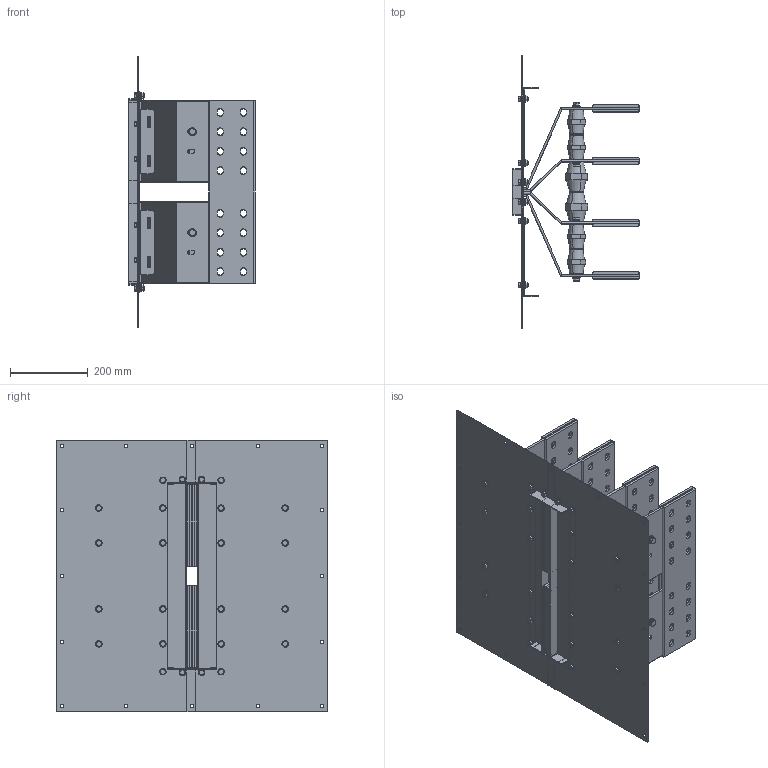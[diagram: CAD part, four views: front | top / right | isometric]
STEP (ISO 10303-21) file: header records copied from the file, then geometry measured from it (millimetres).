
FILE_DESCRIPTION(('CATIA V5 STEP','CAx-IF Rec.Pracs.--- Model Styling and Organization---1.5--- 2016-08-15','CAx-IF Rec.Pracs.---Supplemental Geometry---1.0---2011-11-01','CAx-IF Rec.Pracs.--- Composite Materials ---1.1---2010-07-15'),'2;1');
FILE_NAME('K:\COSCN 2011\32372311_RiduzioneSezioniBarre\03_Studio\__Modelli semplificati\XCP_UB semplificati per studi\XCP-S_UB_4C_Pe_CRT_Assieme\Cu\XCP-S_UB_4C_Pe_D_Assieme - 5000A Cu_CRT\XCP-S_UB_4C_Pe_D_Assieme - 5000A Cu_CRT.stp','2025-05-12T13:21:11+00:00',('Utente Bticino'),('Bticino S.p.A.'),'CATIA Version 5-6 Release 2020 SP5','CATIA V5 STEP AP214 v2','none');
FILE_SCHEMA(('AUTOMOTIVE_DESIGN { 1 0 10303 214 1 1 1 1 }'));
Length unit declared in the file: millimetre
Products named in the file (30): XCP-S_UB_4C_Pe_D_Assieme - 5000A Cu_CRT; XCP-S_UB_4C_Pe_D_PaccoBarre_5000A Cu_CRT; XCP-S_UB_4C_Pe_D_Lamiere_5000A Cu_CRT; XCP-S_UB_4C_Pe_D_PaccoBarre_5000A Cu_CRT_1; XCP-S_UB_4C_Pe_D - 5000A Cu_Bandelle parallelo_CRT; 130006; 130184; 00750033 - RONDELLA PIANA 4.8 D.12 UNI 6592 ZB; Ass_M10x25.1; 00740025 M10x25 UNI5739; Rondella spac M10 UNI 1751; 00750005; 130006_1; 00750033 - RONDELLA PIANA 4.8 D.12 UNI 6592 ZB_1; 130184_1; 130006_2; 00750033 - RONDELLA PIANA 4.8 D.12 UNI 6592 ZB_2; 130006_3; 130006_4; 130184_2; 00750033 - RONDELLA PIANA 4.8 D.12 UNI 6592 ZB_3; 130006_5; 00750033 - RONDELLA PIANA 4.8 D.12 UNI 6592 ZB_4; 130184_3; 130006_6; 00750033 - RONDELLA PIANA 4.8 D.12 UNI 6592 ZB_5; 130006_7; Ass Vite+dado M8; Steel hex flanged SCREW M12x16; Steel hex flanged NUT M8
Assembly tree (63 placements, depth 3):
  XCP-S_UB_4C_Pe_D_Assieme - 5000A Cu_CRT
    XCP-S_UB_4C_Pe_D_PaccoBarre_5000A Cu_CRT
    XCP-S_UB_4C_Pe_D_Lamiere_5000A Cu_CRT
    XCP-S_UB_4C_Pe_D_PaccoBarre_5000A Cu_CRT_1
    XCP-S_UB_4C_Pe_D - 5000A Cu_Bandelle parallelo_CRT
    130006
    130184
    00750033 - RONDELLA PIANA 4.8 D.12 UNI 6592 ZB
    Ass_M10x25.1  x12
      00740025 M10x25 UNI5739
      Rondella spac M10 UNI 1751
      00750005
    130006_1
    00750033 - RONDELLA PIANA 4.8 D.12 UNI 6592 ZB_1
    130184_1
    130006_2
    00750033 - RONDELLA PIANA 4.8 D.12 UNI 6592 ZB_2
    130006_3
    130006_4
    130184_2
    00750033 - RONDELLA PIANA 4.8 D.12 UNI 6592 ZB_3
    130006_5
    00750033 - RONDELLA PIANA 4.8 D.12 UNI 6592 ZB_4
    130184_3
    130006_6
    00750033 - RONDELLA PIANA 4.8 D.12 UNI 6592 ZB_5
    130006_7
    Ass Vite+dado M8  x24
      Steel hex flanged SCREW M12x16
      Steel hex flanged NUT M8
Bounding box: 325 x 700 x 700 mm (x, y, z)
Volume: 8751032.1 mm3; surface area: 4126976.5 mm2
Topology: 132 solids, 132 shells, 3416 faces, 8496 edges, 5404 vertices
Faces by surface type: plane 1560, cylinder 1120, cone 336, bspline 288, torus 112
Entity records: 57577 total; most frequent: CARTESIAN_POINT 11216, ORIENTED_EDGE 10304, DIRECTION 7318, EDGE_CURVE 5152, VERTEX_POINT 3336, VECTOR 3164, LINE 3164, AXIS2_PLACEMENT_3D 3016
